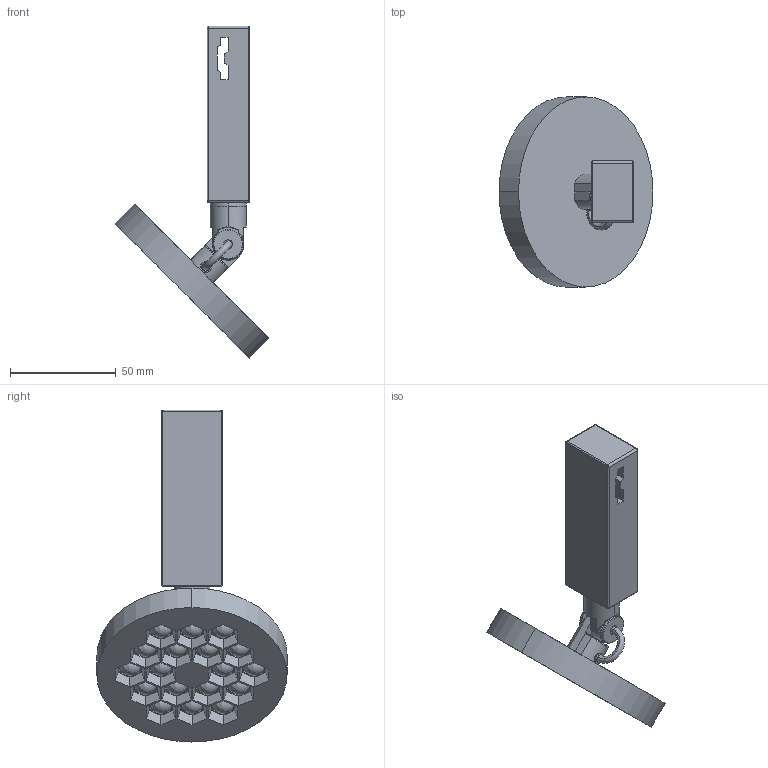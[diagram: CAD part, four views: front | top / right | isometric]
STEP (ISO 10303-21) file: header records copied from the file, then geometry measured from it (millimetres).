
FILE_DESCRIPTION(/* description */ (''),/* implementation_level */ '2;1');
FILE_NAME(/* name */ 'Sylt_Helgoland 90',/* time_stamp */ '2025-11-17T14:06:20+01:00',/* author */ (''),/* organization */ (''),/* preprocessor_version */ 'ST-DEVELOPER v16.5',/* originating_system */ 'Rhino 7.37',/* authorisation */ '');
FILE_SCHEMA (('AUTOMOTIVE_DESIGN'));
Length unit declared in the file: millimetre
Products named in the file (1): Document
Bounding box: 72.9 x 90 x 157.22 mm (x, y, z)
Volume: 50126.2 mm3; surface area: 35424.9 mm2
Topology: 4 solids, 6 shells, 392 faces, 954 edges, 598 vertices
Faces by surface type: plane 194, bspline 162, cylinder 36
Entity records: 18257 total; most frequent: CARTESIAN_POINT 12244, ORIENTED_EDGE 1828, EDGE_CURVE 917, VERTEX_POINT 597, B_SPLINE_CURVE_WITH_KNOTS 558, EDGE_LOOP 459, ADVANCED_FACE 392, FACE_OUTER_BOUND 392
